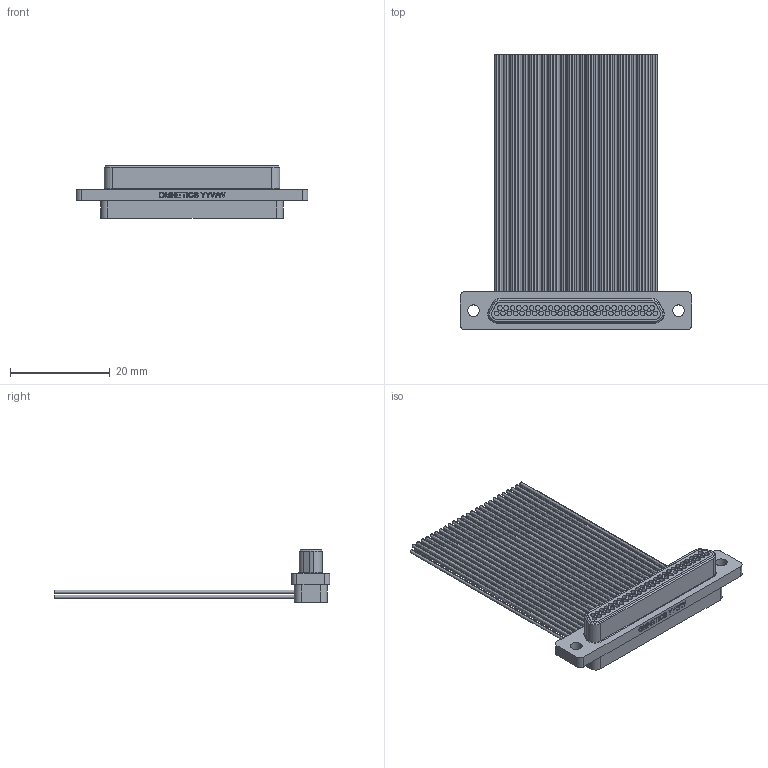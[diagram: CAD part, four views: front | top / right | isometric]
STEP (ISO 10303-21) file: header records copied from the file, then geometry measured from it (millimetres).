
FILE_DESCRIPTION (( 'STEP AP214' ), '1' );
FILE_NAME ('A98202-512 REV A.STEP', '2021-01-20T17:54:36', ( '' ), ( '' ), 'SwSTEP 2.0', 'SolidWorks 2019', '' );
FILE_SCHEMA (( 'AUTOMOTIVE_DESIGN' ));
Length unit declared in the file: inch
Products named in the file (1): A98202-512 REV A
Bounding box: 46.35 x 55.17 x 10.44 mm (x, y, z)
Volume: 3057.5 mm3; surface area: 8599.7 mm2
Topology: 1 solids, 1 shells, 899 faces, 1974 edges, 1240 vertices
Faces by surface type: cylinder 439, plane 294, cone 107, bspline 54, torus 5
Entity records: 39070 total; most frequent: CARTESIAN_POINT 7146, DIRECTION 4437, ORIENTED_EDGE 3936, EDGE_CURVE 1968, AXIS2_PLACEMENT_3D 1735, VERTEX_POINT 1240, EDGE_LOOP 1072, VECTOR 967
